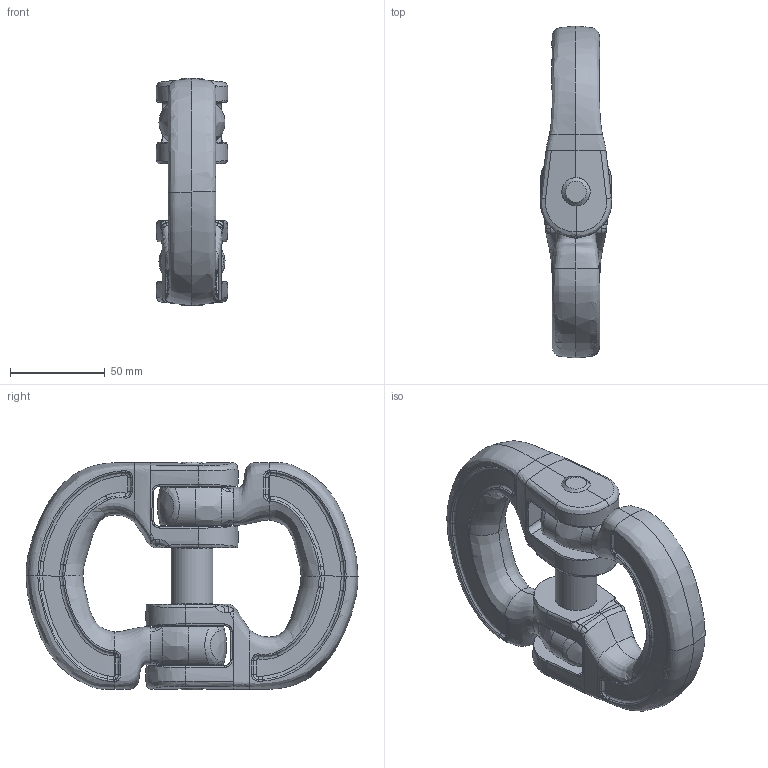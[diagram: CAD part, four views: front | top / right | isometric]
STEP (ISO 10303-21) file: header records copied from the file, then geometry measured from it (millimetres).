
FILE_DESCRIPTION(/* description */ (''),/* implementation_level */ '2;1');
FILE_NAME(/* name */ 'CW 19_20 Kundenmodell',/* time_stamp */ '2010-01-05T07:44:29+01:00',/* author */ (''),/* organization */ (''),/* preprocessor_version */ 'ST-DEVELOPER v9',/* originating_system */ 'UGS - NX 4.0',/* authorisation */ '');
FILE_SCHEMA (('AUTOMOTIVE_DESIGN { 1 0 10303 214 1 1 1 1 }'));
Length unit declared in the file: millimetre
Products named in the file (1): rit3AA4renf
Bounding box: 37.72 x 175 x 120 mm (x, y, z)
Volume: 327166.2 mm3; surface area: 68718.4 mm2
Topology: 4 solids, 4 shells, 397 faces, 979 edges, 588 vertices
Faces by surface type: bspline 314, plane 34, cylinder 31, cone 6, revolution 4, sphere 4, torus 4
Full cylindrical faces by diameter (mm): 15 x8, 22 x1
Entity records: 46907 total; most frequent: CARTESIAN_POINT 40014, ORIENTED_EDGE 1924, EDGE_CURVE 962, DIRECTION 686, B_SPLINE_CURVE_WITH_KNOTS 658, VERTEX_POINT 582, EDGE_LOOP 420, ADVANCED_FACE 397
